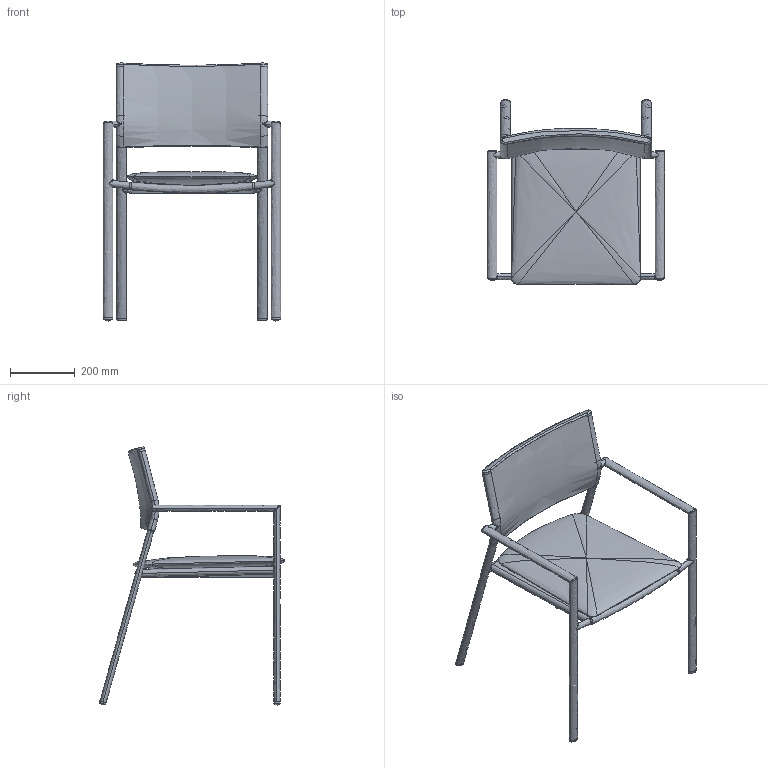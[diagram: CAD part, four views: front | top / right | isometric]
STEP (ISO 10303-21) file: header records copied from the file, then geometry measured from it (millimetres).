
FILE_DESCRIPTION(/* description */ (''),/* implementation_level */ '2;1');
FILE_NAME(/* name */ 'KINOSH~2',/* time_stamp */ '2019-07-19T09:27:16+09:00',/* author */ (''),/* organization */ (''),/* preprocessor_version */ 'ST-DEVELOPER v15',/* originating_system */ '',/* authorisation */ '');
FILE_SCHEMA (('AUTOMOTIVE_DESIGN'));
Length unit declared in the file: millimetre
Products named in the file (2): Document; ﾌﾞﾛｯｸ 02
Assembly tree (1 placements, depth 2):
  Document
    ﾌﾞﾛｯｸ 02
Bounding box: 550 x 573.48 x 799.85 mm (x, y, z)
Volume: 5184699 mm3; surface area: 1424049.5 mm2
Topology: 1 solids, 9 shells, 177 faces, 486 edges, 255 vertices
Faces by surface type: bspline 160, plane 17
Entity records: 49442 total; most frequent: CARTESIAN_POINT 46974, ORIENTED_EDGE 826, EDGE_CURVE 462, VERTEX_POINT 255, B_SPLINE_CURVE_WITH_KNOTS 235, EDGE_LOOP 179, ADVANCED_FACE 177, FACE_OUTER_BOUND 177
